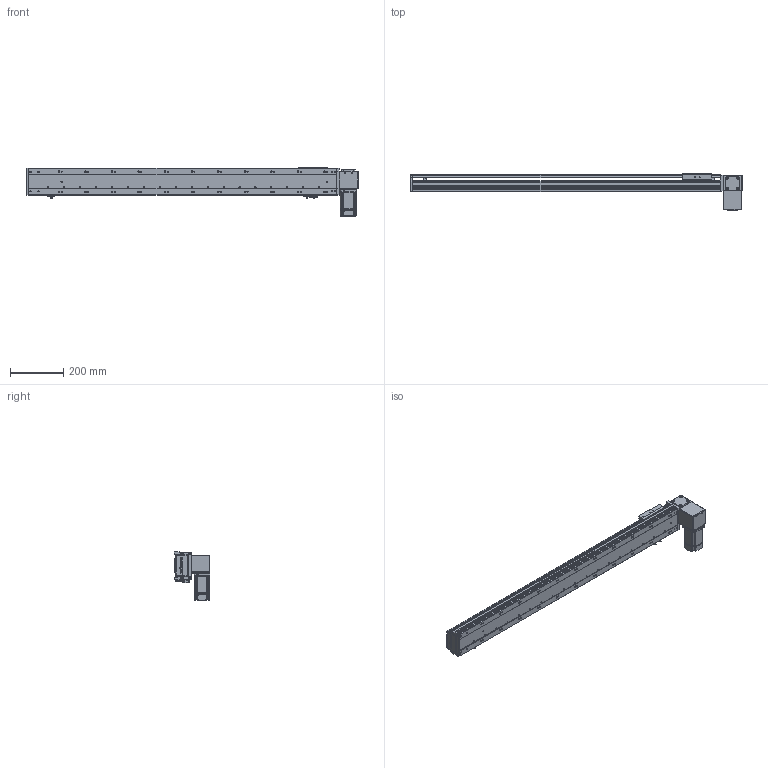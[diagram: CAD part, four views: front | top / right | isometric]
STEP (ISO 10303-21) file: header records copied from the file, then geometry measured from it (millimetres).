
FILE_DESCRIPTION (( 'STEP AP203' ), '1' );
FILE_NAME ('RY100-T-300-DL.SLDASM_950.step', '2024-04-24T01:11:25', ( '盈信电脑' ), ( '东莞市道滘镇水果街19号' ), 'SwSTEP 2.0', 'SolidWorks 2016', '' );
FILE_SCHEMA (( 'CONFIG_CONTROL_DESIGN' ));
Length unit declared in the file: millimetre
Products named in the file (16): RY100俋离覜茼え; 1; RY100-T-300-RK倰第奻裔_950; 滅袉蝶18-10; RY100-T-300-DL.SLDASM_950; RY100-T肮祭謫臏賑輸; RY100-T肮祭謫翋盓傅釱; RY100-T-300-RK倰第菁釱_950; RY100-T翋肮祭謫裔啣2; RY100-T翋肮祭謫粣; RY80-T肮祭謫狟殏俋欶; RY100綴裔啣; RY100-T翋肮祭謫裔啣; RY100-T左右折电机安装板; 覜茼ん672; RY100-T粣創揤踡裔
Assembly tree (18 placements, depth 2):
  RY100-T-300-DL.SLDASM_950
    RY100-T-300-RK倰第菁釱_950
    RY100-T-300-RK倰第奻裔_950
    RY100-T肮祭謫臏賑輸
    RY100綴裔啣
    覜茼ん672  x3
    RY100俋离覜茼え
    RY100-T翋肮祭謫粣
    RY100-T肮祭謫翋盓傅釱
    滅袉蝶18-10  x2
    RY100-T翋肮祭謫裔啣
    1
    RY100-T左右折电机安装板
    RY100-T粣創揤踡裔
    RY100-T翋肮祭謫裔啣2
    RY80-T肮祭謫狟殏俋欶
Bounding box: 1250 x 135.5 x 182.5 mm (x, y, z)
Volume: 2557520 mm3; surface area: 1052540.9 mm2
Topology: 18 solids, 18 shells, 2313 faces, 6445 edges, 4187 vertices
Faces by surface type: plane 1227, cylinder 861, cone 147, bspline 78
Entity records: 75312 total; most frequent: CARTESIAN_POINT 18438, ORIENTED_EDGE 11722, DIRECTION 11149, EDGE_CURVE 5861, VERTEX_POINT 3855, LINE 3719, VECTOR 3719, AXIS2_PLACEMENT_3D 3715
